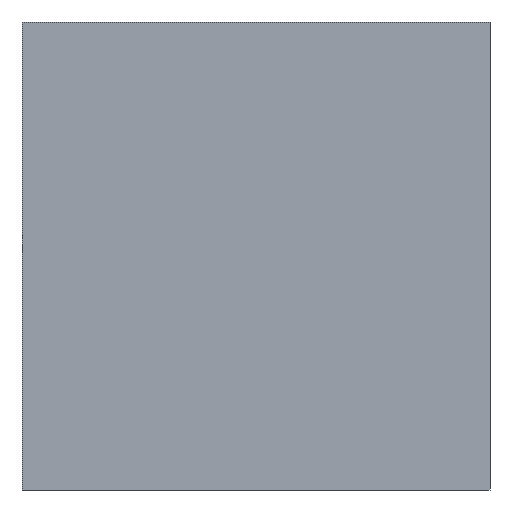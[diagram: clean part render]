
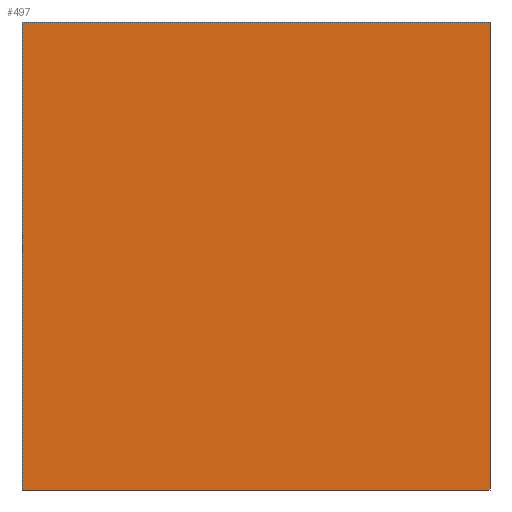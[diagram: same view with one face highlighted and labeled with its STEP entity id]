
A CAD part, left-side view. The second image highlights one B-rep face of the part: STEP entity #497.
In plain terms, the highlighted planar face has unit normal (-1, 0, 0).
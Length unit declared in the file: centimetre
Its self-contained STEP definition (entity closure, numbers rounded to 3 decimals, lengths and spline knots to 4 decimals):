
#55 = AXIS2_PLACEMENT_3D ( 'NONE', #1038, #61, #605 ) ;
#61 = DIRECTION ( 'NONE',  ( 1., 0., 0. ) ) ;
#146 = EDGE_CURVE ( 'NONE', #612, #378, #1015, .T. ) ;
#166 = EDGE_CURVE ( 'NONE', #191, #378, #365, .T. ) ;
#191 = VERTEX_POINT ( 'NONE', #1131 ) ;
#244 = CARTESIAN_POINT ( 'NONE',  ( 0., 1000., 0. ) ) ;
#255 = CARTESIAN_POINT ( 'NONE',  ( 0., 1000., 1000. ) ) ;
#293 = VECTOR ( 'NONE', #988, 100. ) ;
#311 = EDGE_CURVE ( 'NONE', #1372, #612, #877, .T. ) ;
#365 = LINE ( 'NONE', #801, #1190 ) ;
#378 = VERTEX_POINT ( 'NONE', #382 ) ;
#382 = CARTESIAN_POINT ( 'NONE',  ( 0., 0., 0. ) ) ;
#404 = CARTESIAN_POINT ( 'NONE',  ( 0., 1000., 0. ) ) ;
#463 = DIRECTION ( 'NONE',  ( 0., -1., 0. ) ) ;
#497 = ADVANCED_FACE ( 'NONE', ( #1367 ), #1052, .F. ) ;
#547 = CARTESIAN_POINT ( 'NONE',  ( 0., 1000., 1000. ) ) ;
#605 = DIRECTION ( 'NONE',  ( 0., 0., -1. ) ) ;
#612 = VERTEX_POINT ( 'NONE', #404 ) ;
#659 = ORIENTED_EDGE ( 'NONE', *, *, #166, .F. ) ;
#801 = CARTESIAN_POINT ( 'NONE',  ( 0., 0., 1000. ) ) ;
#852 = ORIENTED_EDGE ( 'NONE', *, *, #1188, .F. ) ;
#877 = LINE ( 'NONE', #1292, #1275 ) ;
#960 = VECTOR ( 'NONE', #463, 100. ) ;
#988 = DIRECTION ( 'NONE',  ( 0., -1., 0. ) ) ;
#1000 = DIRECTION ( 'NONE',  ( 0., 0., -1. ) ) ;
#1015 = LINE ( 'NONE', #244, #960 ) ;
#1038 = CARTESIAN_POINT ( 'NONE',  ( 0., 1000., 1000. ) ) ;
#1052 = PLANE ( 'NONE',  #55 ) ;
#1076 = LINE ( 'NONE', #547, #293 ) ;
#1087 = ORIENTED_EDGE ( 'NONE', *, *, #146, .T. ) ;
#1131 = CARTESIAN_POINT ( 'NONE',  ( 0., 0., 1000. ) ) ;
#1137 = EDGE_LOOP ( 'NONE', ( #1087, #659, #852, #1181 ) ) ;
#1181 = ORIENTED_EDGE ( 'NONE', *, *, #311, .T. ) ;
#1188 = EDGE_CURVE ( 'NONE', #1372, #191, #1076, .T. ) ;
#1190 = VECTOR ( 'NONE', #1000, 100. ) ;
#1275 = VECTOR ( 'NONE', #1306, 100. ) ;
#1292 = CARTESIAN_POINT ( 'NONE',  ( 0., 1000., 1000. ) ) ;
#1306 = DIRECTION ( 'NONE',  ( 0., 0., -1. ) ) ;
#1367 = FACE_OUTER_BOUND ( 'NONE', #1137, .T. ) ;
#1372 = VERTEX_POINT ( 'NONE', #255 ) ;
